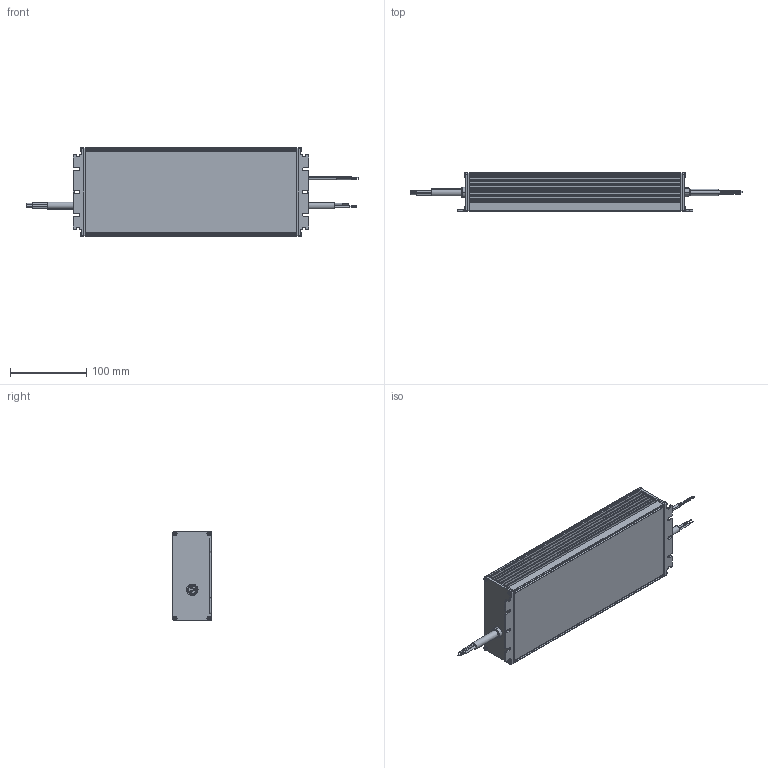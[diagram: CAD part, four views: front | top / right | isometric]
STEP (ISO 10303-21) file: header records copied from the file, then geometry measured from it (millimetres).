
FILE_DESCRIPTION((''),'2;1');
FILE_NAME('USCO-600400GA_ASM','2021-07-19T',('ALBERT.LI'),(''),'CREO PARAMETRIC BY PTC INC, 2018220','CREO PARAMETRIC BY PTC INC, 2018220','');
FILE_SCHEMA(('CONFIG_CONTROL_DESIGN'));
Length unit declared in the file: millimetre
Products named in the file (11): SEALANT_IN; SCREW__3109181100_; OUTPUT_CABLE; ENDCAP_OUTPUT_20191217; BODY__FROM_YAOJUN_; INPUT_CABLE; SEALANT_OU; ENDCAP_INPUT_20191217; DIMMING_CABLE; USC4-600400GA_ASM; USCO-600400GA_ASM
Assembly tree (17 placements, depth 3):
  USCO-600400GA_ASM
    USC4-600400GA_ASM
      SEALANT_IN
      SCREW__3109181100_  x8
      OUTPUT_CABLE
      ENDCAP_OUTPUT_20191217
      BODY__FROM_YAOJUN_
      INPUT_CABLE
      SEALANT_OU
      ENDCAP_INPUT_20191217
      DIMMING_CABLE
Bounding box: 435.2 x 50.8 x 116.6 mm (x, y, z)
Volume: 307836.5 mm3; surface area: 294490.2 mm2
Topology: 16 solids, 16 shells, 1342 faces, 3605 edges, 2365 vertices
Faces by surface type: cylinder 598, plane 495, extrusion 137, cone 42, torus 38, sphere 16, bspline 16
Entity records: 38350 total; most frequent: CARTESIAN_POINT 15426, ORIENTED_EDGE 4844, DIRECTION 4459, EDGE_CURVE 2422, VERTEX_POINT 1609, VECTOR 1507, AXIS2_PLACEMENT_3D 1476, LINE 1370
